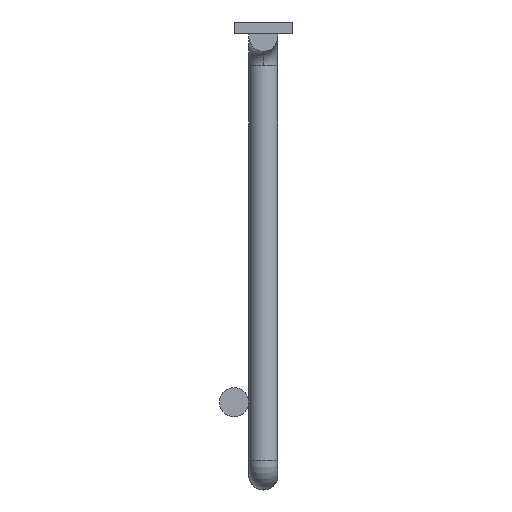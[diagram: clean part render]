
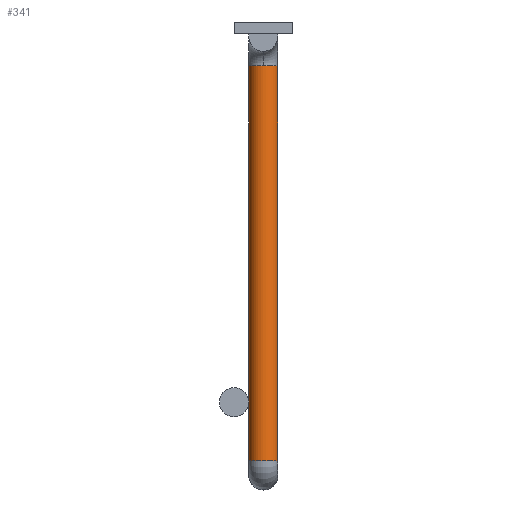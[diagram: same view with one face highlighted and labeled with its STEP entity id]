
A CAD part, left-side view. The second image highlights one B-rep face of the part: STEP entity #341.
In plain terms, the highlighted cylindrical face has radius 3.175 mm (diameter 6.35 mm), a partial arc.
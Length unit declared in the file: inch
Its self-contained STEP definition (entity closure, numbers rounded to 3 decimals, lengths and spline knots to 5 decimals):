
#46 = DIRECTION ( 'NONE',  ( 0., -1., 0. ) ) ;
#181 = EDGE_CURVE ( 'NONE', #841, #1977, #1565, .T. ) ;
#213 = CARTESIAN_POINT ( 'NONE',  ( -8.625, -2.25, 0. ) ) ;
#229 = CARTESIAN_POINT ( 'NONE',  ( -8.625, -2.25, 0. ) ) ;
#254 = CARTESIAN_POINT ( 'NONE',  ( -8.625, 1.125, 0.125 ) ) ;
#341 = ADVANCED_FACE ( 'NONE', ( #595 ), #742, .T. ) ;
#353 = ORIENTED_EDGE ( 'NONE', *, *, #627, .F. ) ;
#484 = DIRECTION ( 'NONE',  ( 0., -1., 0. ) ) ;
#554 = DIRECTION ( 'NONE',  ( 0., 0., -1. ) ) ;
#580 = EDGE_CURVE ( 'NONE', #1806, #998, #2049, .T. ) ;
#595 = FACE_OUTER_BOUND ( 'NONE', #1384, .T. ) ;
#608 = AXIS2_PLACEMENT_3D ( 'NONE', #213, #1377, #1207 ) ;
#622 = VECTOR ( 'NONE', #1920, 39.37008 ) ;
#627 = EDGE_CURVE ( 'NONE', #868, #1806, #1429, .T. ) ;
#677 = AXIS2_PLACEMENT_3D ( 'NONE', #229, #46, #554 ) ;
#742 = CYLINDRICAL_SURFACE ( 'NONE', #801, 0.125 ) ;
#767 = ORIENTED_EDGE ( 'NONE', *, *, #976, .F. ) ;
#784 = AXIS2_PLACEMENT_3D ( 'NONE', #1089, #1886, #906 ) ;
#801 = AXIS2_PLACEMENT_3D ( 'NONE', #1813, #484, #812 ) ;
#812 = DIRECTION ( 'NONE',  ( 0., 0., -1. ) ) ;
#841 = VERTEX_POINT ( 'NONE', #1451 ) ;
#868 = VERTEX_POINT ( 'NONE', #1938 ) ;
#876 = LINE ( 'NONE', #1368, #1857 ) ;
#881 = LINE ( 'NONE', #1589, #622 ) ;
#906 = DIRECTION ( 'NONE',  ( 1., 0., 0. ) ) ;
#976 = EDGE_CURVE ( 'NONE', #1977, #868, #881, .T. ) ;
#998 = VERTEX_POINT ( 'NONE', #2080 ) ;
#1089 = CARTESIAN_POINT ( 'NONE',  ( -8.625, 1.125, 0. ) ) ;
#1205 = DIRECTION ( 'NONE',  ( 0., -1., 0. ) ) ;
#1207 = DIRECTION ( 'NONE',  ( 0., 0., -1. ) ) ;
#1368 = CARTESIAN_POINT ( 'NONE',  ( -8.625, 1.125, -0.125 ) ) ;
#1377 = DIRECTION ( 'NONE',  ( 0., -1., 0. ) ) ;
#1384 = EDGE_LOOP ( 'NONE', ( #767, #1580, #1708, #1834, #353 ) ) ;
#1401 = EDGE_CURVE ( 'NONE', #841, #998, #876, .T. ) ;
#1429 = CIRCLE ( 'NONE', #608, 0.125 ) ;
#1451 = CARTESIAN_POINT ( 'NONE',  ( -8.625, 1.125, -0.125 ) ) ;
#1495 = CARTESIAN_POINT ( 'NONE',  ( -8.75, -2.25, 0. ) ) ;
#1565 = CIRCLE ( 'NONE', #784, 0.125 ) ;
#1580 = ORIENTED_EDGE ( 'NONE', *, *, #181, .F. ) ;
#1589 = CARTESIAN_POINT ( 'NONE',  ( -8.625, 1.125, 0.125 ) ) ;
#1708 = ORIENTED_EDGE ( 'NONE', *, *, #1401, .T. ) ;
#1806 = VERTEX_POINT ( 'NONE', #1495 ) ;
#1813 = CARTESIAN_POINT ( 'NONE',  ( -8.625, 1.125, 0. ) ) ;
#1834 = ORIENTED_EDGE ( 'NONE', *, *, #580, .F. ) ;
#1857 = VECTOR ( 'NONE', #1205, 39.37008 ) ;
#1886 = DIRECTION ( 'NONE',  ( 0., 1., 0. ) ) ;
#1920 = DIRECTION ( 'NONE',  ( 0., -1., 0. ) ) ;
#1938 = CARTESIAN_POINT ( 'NONE',  ( -8.625, -2.25, 0.125 ) ) ;
#1977 = VERTEX_POINT ( 'NONE', #254 ) ;
#2049 = CIRCLE ( 'NONE', #677, 0.125 ) ;
#2080 = CARTESIAN_POINT ( 'NONE',  ( -8.625, -2.25, -0.125 ) ) ;
